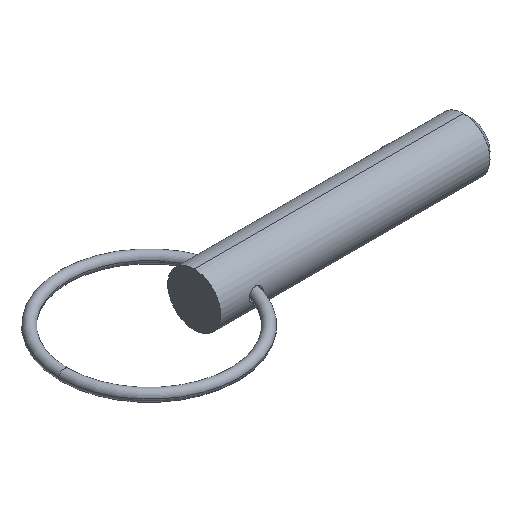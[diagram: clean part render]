
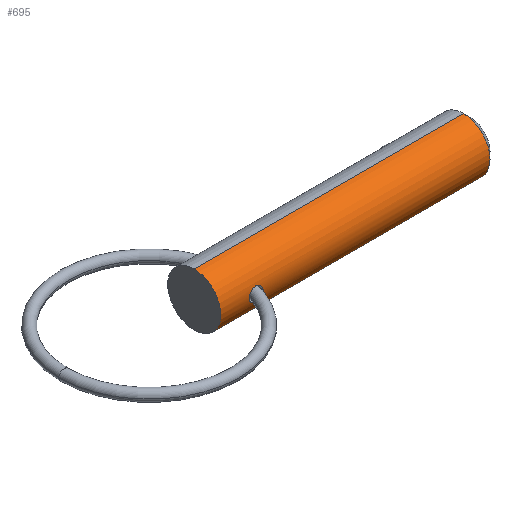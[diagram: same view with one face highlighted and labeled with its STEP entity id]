
A CAD part, isometric view. The second image highlights one B-rep face of the part: STEP entity #695.
In plain terms, the highlighted cylindrical face has radius 3.97 mm (diameter 7.94 mm), a partial arc.
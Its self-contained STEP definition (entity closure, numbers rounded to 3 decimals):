
#2 = CARTESIAN_POINT ( 'NONE',  ( 5.952, -3.887, -0.811 ) ) ;
#3 = CARTESIAN_POINT ( 'NONE',  ( 6.35, -3.97, -0.133 ) ) ;
#29 = CARTESIAN_POINT ( 'NONE',  ( 0., 0., 0. ) ) ;
#31 = B_SPLINE_CURVE_WITH_KNOTS ( 'NONE', 3,
 ( #827, #492, #179, #294, #482, #615, #549, #359, #674, #619, #430, #167, #681, #556, #244, #816, #420, #237 ),
 .UNSPECIFIED., .F., .F.,
 ( 4, 2, 2, 2, 2, 2, 2, 2, 4 ),
 ( 0.001, 0.001, 0.001, 0.002, 0.002, 0.003, 0.003, 0.003, 0.004 ),
 .UNSPECIFIED. ) ;
#37 = LINE ( 'NONE', #119, #698 ) ;
#49 = DIRECTION ( 'NONE',  ( 0., 0., -1. ) ) ;
#50 = AXIS2_PLACEMENT_3D ( 'NONE', #821, #488, #49 ) ;
#59 = CARTESIAN_POINT ( 'NONE',  ( 4.26, -3.97, -0.134 ) ) ;
#62 = AXIS2_PLACEMENT_3D ( 'NONE', #29, #351, #532 ) ;
#119 = CARTESIAN_POINT ( 'NONE',  ( 0., 0., -3.97 ) ) ;
#132 = CARTESIAN_POINT ( 'NONE',  ( 4.408, -3.939, -0.508 ) ) ;
#133 = EDGE_CURVE ( 'NONE', #778, #560, #37, .T. ) ;
#137 = ORIENTED_EDGE ( 'NONE', *, *, #516, .F. ) ;
#143 = ORIENTED_EDGE ( 'NONE', *, *, #582, .T. ) ;
#155 = VERTEX_POINT ( 'NONE', #173 ) ;
#164 = LINE ( 'NONE', #279, #204 ) ;
#167 = CARTESIAN_POINT ( 'NONE',  ( 5.839, -3.871, 0.882 ) ) ;
#173 = CARTESIAN_POINT ( 'NONE',  ( 6.35, -3.97, 0. ) ) ;
#179 = CARTESIAN_POINT ( 'NONE',  ( 4.292, -3.963, 0.268 ) ) ;
#188 = CARTESIAN_POINT ( 'NONE',  ( 4.492, -3.923, -0.614 ) ) ;
#189 = CARTESIAN_POINT ( 'NONE',  ( 5.837, -3.871, -0.882 ) ) ;
#196 = CARTESIAN_POINT ( 'NONE',  ( 4.788, -3.876, -0.879 ) ) ;
#197 = EDGE_LOOP ( 'NONE', ( #708, #143, #503, #137 ) ) ;
#204 = VECTOR ( 'NONE', #745, 1000. ) ;
#210 = ORIENTED_EDGE ( 'NONE', *, *, #375, .T. ) ;
#237 = CARTESIAN_POINT ( 'NONE',  ( 6.35, -3.97, 0. ) ) ;
#244 = CARTESIAN_POINT ( 'NONE',  ( 6.221, -3.939, 0.513 ) ) ;
#254 = CARTESIAN_POINT ( 'NONE',  ( 6.324, -3.963, -0.267 ) ) ;
#279 = CARTESIAN_POINT ( 'NONE',  ( 0., 0., 3.97 ) ) ;
#290 = DIRECTION ( 'NONE',  ( 1., 0., 0. ) ) ;
#294 = CARTESIAN_POINT ( 'NONE',  ( 4.408, -3.939, 0.507 ) ) ;
#295 = DIRECTION ( 'NONE',  ( 0., 0., -1. ) ) ;
#298 = CARTESIAN_POINT ( 'NONE',  ( 40.288, 0., -3.97 ) ) ;
#345 = ORIENTED_EDGE ( 'NONE', *, *, #500, .T. ) ;
#346 = FACE_OUTER_BOUND ( 'NONE', #197, .T. ) ;
#351 = DIRECTION ( 'NONE',  ( 1., 0., 0. ) ) ;
#359 = CARTESIAN_POINT ( 'NONE',  ( 5.055, -3.852, 0.961 ) ) ;
#363 = CARTESIAN_POINT ( 'NONE',  ( 4.26, -3.97, 0. ) ) ;
#375 = EDGE_CURVE ( 'NONE', #155, #764, #815, .T. ) ;
#415 = CARTESIAN_POINT ( 'NONE',  ( 0., 0., 3.97 ) ) ;
#420 = CARTESIAN_POINT ( 'NONE',  ( 6.35, -3.97, 0.134 ) ) ;
#430 = CARTESIAN_POINT ( 'NONE',  ( 5.587, -3.849, 0.975 ) ) ;
#435 = AXIS2_PLACEMENT_3D ( 'NONE', #616, #290, #295 ) ;
#440 = CARTESIAN_POINT ( 'NONE',  ( 4.291, -3.963, -0.267 ) ) ;
#449 = CARTESIAN_POINT ( 'NONE',  ( 6.145, -3.922, -0.626 ) ) ;
#450 = CARTESIAN_POINT ( 'NONE',  ( 5.052, -3.846, -0.984 ) ) ;
#474 = CARTESIAN_POINT ( 'NONE',  ( 0., 0., -3.97 ) ) ;
#482 = CARTESIAN_POINT ( 'NONE',  ( 4.492, -3.923, 0.614 ) ) ;
#484 = FACE_BOUND ( 'NONE', #833, .T. ) ;
#488 = DIRECTION ( 'NONE',  ( 1., 0., 0. ) ) ;
#492 = CARTESIAN_POINT ( 'NONE',  ( 4.26, -3.97, 0.134 ) ) ;
#500 = EDGE_CURVE ( 'NONE', #764, #155, #31, .T. ) ;
#503 = ORIENTED_EDGE ( 'NONE', *, *, #133, .T. ) ;
#507 = CARTESIAN_POINT ( 'NONE',  ( 4.26, -3.97, 0. ) ) ;
#516 = EDGE_CURVE ( 'NONE', #629, #560, #769, .T. ) ;
#532 = DIRECTION ( 'NONE',  ( 0., 0., -1. ) ) ;
#537 = DIRECTION ( 'NONE',  ( 1., 0., 0. ) ) ;
#544 = CARTESIAN_POINT ( 'NONE',  ( 40.288, 0., 3.97 ) ) ;
#549 = CARTESIAN_POINT ( 'NONE',  ( 4.805, -3.876, 0.862 ) ) ;
#556 = CARTESIAN_POINT ( 'NONE',  ( 6.144, -3.921, 0.626 ) ) ;
#560 = VERTEX_POINT ( 'NONE', #298 ) ;
#582 = EDGE_CURVE ( 'NONE', #779, #778, #623, .T. ) ;
#615 = CARTESIAN_POINT ( 'NONE',  ( 4.691, -3.891, 0.792 ) ) ;
#616 = CARTESIAN_POINT ( 'NONE',  ( 0., 0., 0. ) ) ;
#619 = CARTESIAN_POINT ( 'NONE',  ( 5.455, -3.843, 0.996 ) ) ;
#623 = CIRCLE ( 'NONE', #435, 3.97 ) ;
#629 = VERTEX_POINT ( 'NONE', #544 ) ;
#631 = CARTESIAN_POINT ( 'NONE',  ( 5.587, -3.849, -0.975 ) ) ;
#666 = EDGE_CURVE ( 'NONE', #779, #629, #164, .T. ) ;
#674 = CARTESIAN_POINT ( 'NONE',  ( 5.185, -3.845, 0.988 ) ) ;
#681 = CARTESIAN_POINT ( 'NONE',  ( 5.953, -3.888, 0.81 ) ) ;
#695 = ADVANCED_FACE ( 'NONE', ( #346, #484 ), #830, .T. ) ;
#698 = VECTOR ( 'NONE', #537, 1000. ) ;
#703 = CARTESIAN_POINT ( 'NONE',  ( 6.221, -3.939, -0.514 ) ) ;
#708 = ORIENTED_EDGE ( 'NONE', *, *, #666, .F. ) ;
#745 = DIRECTION ( 'NONE',  ( 1., 0., 0. ) ) ;
#762 = CARTESIAN_POINT ( 'NONE',  ( 6.35, -3.97, 0. ) ) ;
#764 = VERTEX_POINT ( 'NONE', #363 ) ;
#769 = CIRCLE ( 'NONE', #50, 3.97 ) ;
#775 = CARTESIAN_POINT ( 'NONE',  ( 5.452, -3.843, -0.996 ) ) ;
#778 = VERTEX_POINT ( 'NONE', #474 ) ;
#779 = VERTEX_POINT ( 'NONE', #415 ) ;
#815 = B_SPLINE_CURVE_WITH_KNOTS ( 'NONE', 3,
 ( #762, #3, #254, #703, #449, #2, #189, #631, #775, #450, #196, #188, #132, #440, #59, #507 ),
 .UNSPECIFIED., .F., .F.,
 ( 4, 2, 2, 2, 2, 2, 2, 4 ),
 ( 0.004, 0.004, 0.005, 0.005, 0.005, 0.006, 0.007, 0.007 ),
 .UNSPECIFIED. ) ;
#816 = CARTESIAN_POINT ( 'NONE',  ( 6.323, -3.963, 0.268 ) ) ;
#821 = CARTESIAN_POINT ( 'NONE',  ( 40.288, 0., 0. ) ) ;
#827 = CARTESIAN_POINT ( 'NONE',  ( 4.26, -3.97, 0. ) ) ;
#830 = CYLINDRICAL_SURFACE ( 'NONE', #62, 3.97 ) ;
#833 = EDGE_LOOP ( 'NONE', ( #345, #210 ) ) ;
